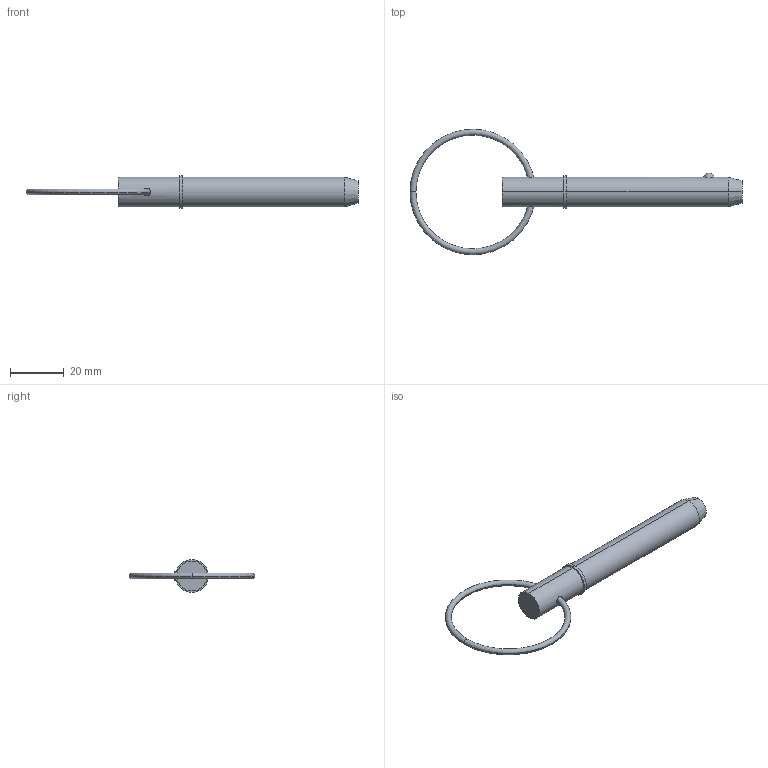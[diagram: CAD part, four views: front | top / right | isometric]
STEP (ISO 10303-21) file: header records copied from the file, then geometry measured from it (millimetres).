
FILE_DESCRIPTION (( 'STEP AP203' ), '1' );
FILE_NAME ('33016.W4320.step', '2024-11-07T11:07:05', ( '' ), ( '' ), 'SwSTEP 2.0', 'SolidWorks 2019', '' );
FILE_SCHEMA (( 'CONFIG_CONTROL_DESIGN' ));
Length unit declared in the file: millimetre
Products named in the file (3): 33016.W4320; Part1_33016.W4320; Part2_33016.W4320
Assembly tree (2 placements, depth 2):
  33016.W4320
    Part1_33016.W4320
    Part2_33016.W4320
Bounding box: 123.42 x 46.67 x 12.22 mm (x, y, z)
Volume: 9040.8 mm3; surface area: 4359.7 mm2
Topology: 2 solids, 2 shells, 22 faces, 43 edges, 26 vertices
Faces by surface type: torus 8, cylinder 6, plane 4, sphere 2, cone 2
Entity records: 1023 total; most frequent: CARTESIAN_POINT 246, DIRECTION 120, ORIENTED_EDGE 86, AXIS2_PLACEMENT_3D 56, EDGE_CURVE 43, CIRCLE 29, EDGE_LOOP 27, PERSON_AND_ORGANIZATION 26
